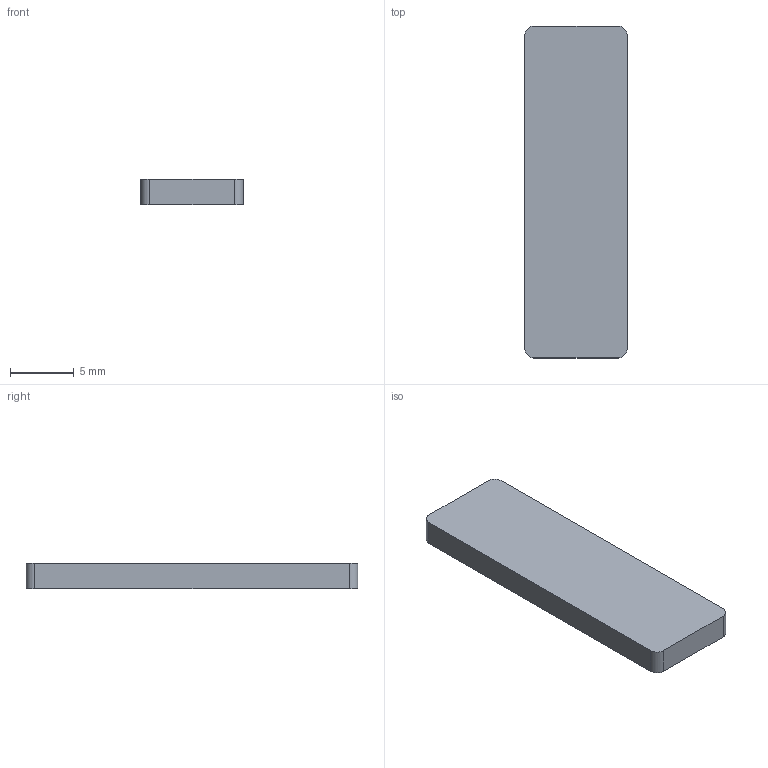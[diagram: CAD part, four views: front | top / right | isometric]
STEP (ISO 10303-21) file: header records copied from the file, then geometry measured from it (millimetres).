
FILE_DESCRIPTION(('Open CASCADE Model'),'2;1');
FILE_NAME('C27_UC1_Battery_Front_Pad_1_FREE_STATE','2026-09-09T20:28:31' ,('Author'),('Open CASCADE'),'Open CASCADE STEP processor 7.9', 'build123d','Unknown');
FILE_SCHEMA(('AUTOMOTIVE_DESIGN { 1 0 10303 214 1 1 1 1 }'));
Length unit declared in the file: millimetre
Products named in the file (1): C27_UC1_Battery_Front_Pad_1_FREE_STATE
Bounding box: 8 x 26 x 2 mm (x, y, z)
Volume: 415.2 mm3; surface area: 548.8 mm2
Topology: 1 solids, 1 shells, 10 faces, 24 edges, 16 vertices
Faces by surface type: plane 6, cylinder 4
Entity records: 618 total; most frequent: DIRECTION 102, CARTESIAN_POINT 99, LINE 56, VECTOR 56, ORIENTED_EDGE 48, PCURVE 48, DEFINITIONAL_REPRESENTATION 48, EDGE_CURVE 24
